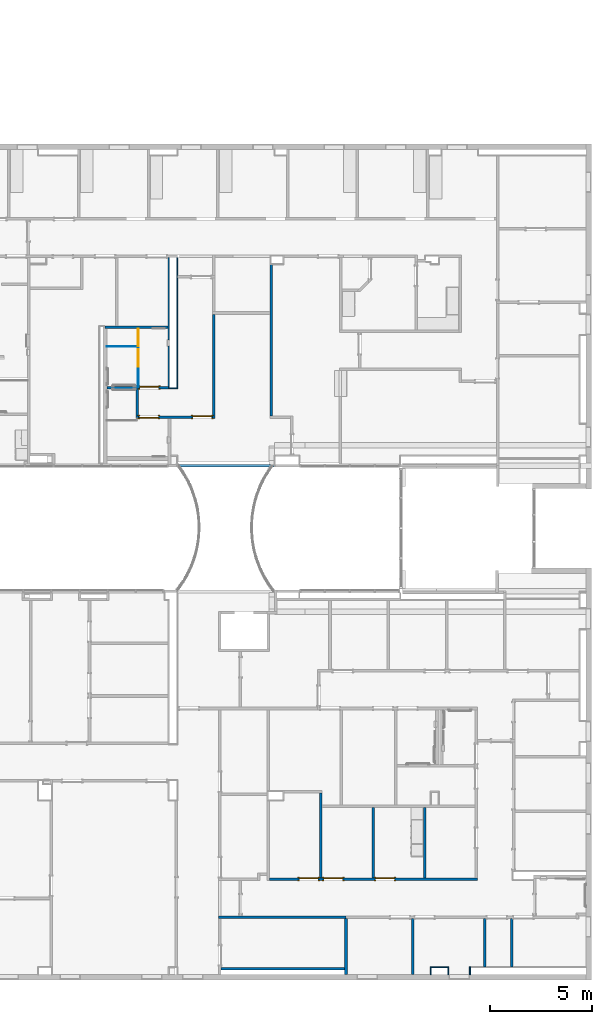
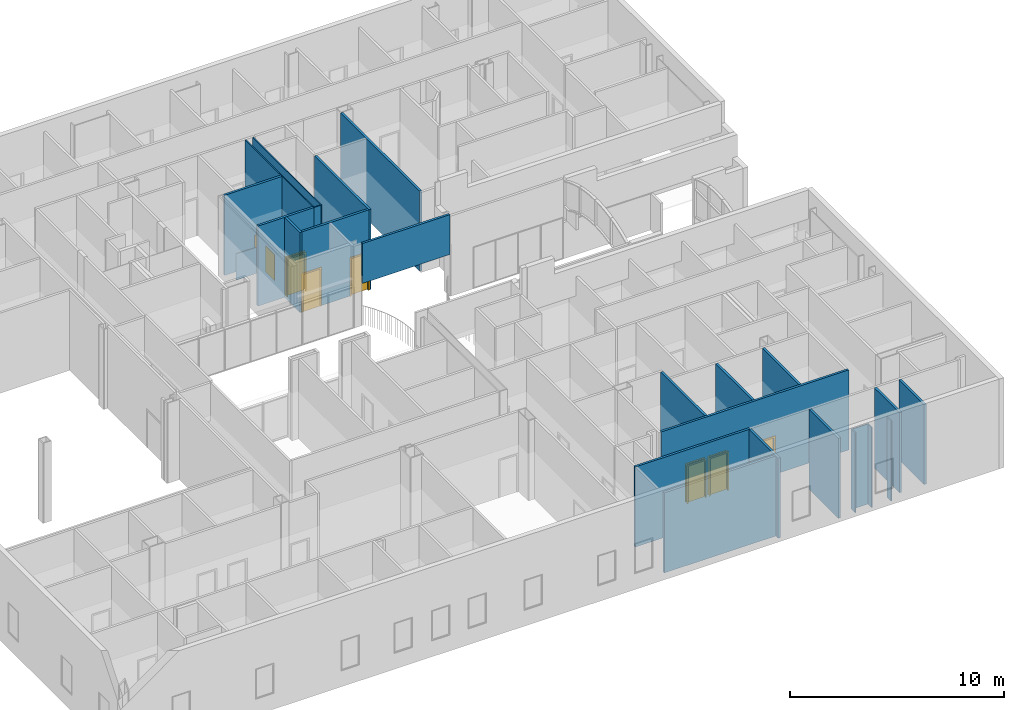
# One storey, part 14 of 45: 26 walls, 8 doors, 9 openings.
"""IFC2X3 building model written with IfcOpenShell, lengths in metres."""

from ifc_helpers import new_model, entity, si_unit, converted_unit, frame, frame_2d, origin, origin_2d_with_axis, place, context, project, spatial, polyline, rectangle, outline, extrude, source, transform, mapped, material, layer, layer_set, layer_usage, type_object, type_shapes, element, fill, save


model = new_model("IFC2X3")

# Units and contexts
model_context = context("Model", 3, precision=1e-09, world=origin())
plan_context = context("Plan", 3, precision=1e-09, world=origin())
ifc_project = project(units=[si_unit("LENGTHUNIT", "METRE"), si_unit("AREAUNIT", "SQUARE_METRE"), si_unit("VOLUMEUNIT", "CUBIC_METRE"), converted_unit("PLANEANGLEUNIT", "DEGREE", entity("IfcRatioMeasure", 0.01745329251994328), si_unit("PLANEANGLEUNIT", "RADIAN"), dimensions=[0, 0, 0, 0, 0, 0, 0]), si_unit("TIMEUNIT", "SECOND")], contexts=[model_context, plan_context])

# Site, building, storey
site_placement = place(None, origin())
site = spatial("IfcSite", under=ifc_project, at=site_placement, Name="Default", CompositionType="ELEMENT")
building_placement = place(site_placement, origin())
building = spatial("IfcBuilding", under=site, at=building_placement, CompositionType="ELEMENT")
storey_placement = place(building_placement, frame((0.0, 0.0, 4.570000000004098)))
storey = spatial("IfcBuildingStorey", under=building, at=storey_placement, Name="Second Floor", CompositionType="ELEMENT", Elevation=4.570000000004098)

# Wall, openings, doors
ifc_material_1 = material(Name="Plasterboard")
ifc_layer_1 = layer(ifc_material_1, 0.016)
ifc_material_2 = material(Name="Metal - Stud Layer")
ifc_layer_2 = layer(ifc_material_2, 0.092)
ifc_layer_3 = layer(ifc_material_1, 0.016)
ifc_layer_set_1 = layer_set([ifc_layer_1, ifc_layer_2, ifc_layer_3], Name="Basic Wall:Interior - Partition (92mm Stud)")
ifc_layer_usage_1 = layer_usage(ifc_layer_set_1, "AXIS2", "NEGATIVE", 0.062)
wall_1_placement = place(storey_placement, frame((-5.200000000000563, 14.58643871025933, 0.0), z_axis=(0.0, 0.0, 1.0), x_axis=(-1.0, 0.0, 0.0)))
wall_1 = element("IfcWallStandardCase", 1, at=wall_1_placement, inside=storey, material=ifc_layer_usage_1, Name="Basic Wall:Interior - Partition (92mm Stud)", ObjectType="Basic Wall:Interior - Partition (92mm Stud)", context=model_context, shape_type="SweptSolid", body=[
    extrude(rectangle(XDim=10.13599999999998, YDim=0.1240000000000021, at=frame_2d((5.067999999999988, 0.0), x_axis=(-1.0, 0.0))), origin(), (0.0, 0.0, 1.0), 4.577999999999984),
])
opening_1_placement = place(wall_1_placement, frame((4.965999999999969, 0.06199999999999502, 0.0)))
opening_1 = element("IfcOpeningElement", 2, at=opening_1_placement, cuts=wall_1, Name="M_Single-Flush:0915 x 2134mm:0915 x 2134mm:1", ObjectType="Opening", context=model_context, shape_type="SweptSolid", body=[
    extrude(rectangle(XDim=0.9149999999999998, YDim=2.134, at=frame_2d((1.067, 0.4574999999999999), x_axis=(0.0, -1.0))), frame((0.0, 0.0, 0.0), z_axis=(0.0, -1.0, 0.0), x_axis=(0.0, 0.0, 1.0)), (0.0, 0.0, 1.0), 0.124),
])
opening_2_placement = place(wall_1_placement, frame((8.688999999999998, 0.06199999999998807, 0.0)))
opening_2 = element("IfcOpeningElement", 3, at=opening_2_placement, cuts=wall_1, Name="M_Single-Flush:0915 x 2134mm:0915 x 2134mm:1", ObjectType="Opening", context=model_context, shape_type="SweptSolid", body=[
    extrude(rectangle(XDim=0.9149999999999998, YDim=2.134, at=frame_2d((1.067, 0.4575), x_axis=(0.0, 1.0))), frame((0.0, 0.0, 0.0), z_axis=(0.0, -1.0, 0.0), x_axis=(0.0, 0.0, 1.0)), (0.0, 0.0, 1.0), 0.124),
])
opening_3_placement = place(wall_1_placement, frame((7.489999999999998, 0.06199999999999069, 0.0)))
opening_3 = element("IfcOpeningElement", 4, at=opening_3_placement, cuts=wall_1, Name="M_Single-Flush:0915 x 2134mm:0915 x 2134mm:1", ObjectType="Opening", context=model_context, shape_type="SweptSolid", body=[
    extrude(rectangle(XDim=0.9149999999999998, YDim=2.134, at=frame_2d((1.067, 0.4574999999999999), x_axis=(0.0, -1.0))), frame((0.0, 0.0, 0.0), z_axis=(0.0, -1.0, 0.0), x_axis=(0.0, 0.0, 1.0)), (0.0, 0.0, 1.0), 0.124),
])
door_style_1 = type_object("IfcDoorStyle", Name="0915 x 2134mm", ConstructionType="NOTDEFINED", OperationType="SINGLE_SWING_RIGHT", ParameterTakesPrecedence=False, Sizeable=False)
shared_shape_1 = source(origin(), model_context, "Body", "SweptSolid", [
    extrude(outline(polyline([(-0.5335, -1.123999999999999), (0.5334999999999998, -1.123999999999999), (0.5334999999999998, 1.086), (0.4574999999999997, 1.086), (0.4574999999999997, -1.048000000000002), (-0.4574999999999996, -1.048000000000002), (-0.4574999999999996, 1.086), (-0.5335, 1.086), (-0.5335, -1.123999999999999)])), frame((0.4575000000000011, 0.1239999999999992, 1.086), z_axis=(0.0, 1.0, 0.0), x_axis=(1.0, 0.0, 0.0)), (0.0, 0.0, 1.0), 0.02499999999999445),
    extrude(outline(polyline([(-1.123999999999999, -0.5334999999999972), (1.085999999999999, -0.5334999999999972), (1.085999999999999, -0.4575000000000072), (-1.048, -0.4575000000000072), (-1.048, 0.4575000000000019), (1.085999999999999, 0.4575000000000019), (1.085999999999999, 0.5335000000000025), (-1.123999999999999, 0.5335000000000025), (-1.123999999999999, -0.5334999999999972)])), frame((0.4575000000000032, -0.02500000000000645, 1.085999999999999), z_axis=(0.0, 1.0, 0.0), x_axis=(0.0, 0.0, -1.0)), (0.0, 0.0, 1.0), 0.02500000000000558),
    extrude(rectangle(XDim=0.051, YDim=0.9149999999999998, at=origin_2d_with_axis()), frame((0.4575000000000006, 0.09849999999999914, 0.0), z_axis=(0.0, 0.0, 1.0), x_axis=(0.0, 1.0, 0.0)), (0.0, 0.0, 1.0), 2.133999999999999),
])
type_shapes(door_style_1, [shared_shape_1])
door_1_placement = place(opening_2_placement, frame((0.0, 0.0, 0.0), z_axis=(0.0, 0.0, 1.0), x_axis=(-1.0, 0.0, 0.0)))
door_1 = element("IfcDoor", 5, at=door_1_placement, inside=storey, type_object=door_style_1, Name="M_Single-Flush:0915 x 2134mm:0915 x 2134mm", ObjectType="0915 x 2134mm", OverallHeight=2.134, OverallWidth=0.9149999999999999, context=model_context, shape_type="MappedRepresentation", body=[
    mapped(shared_shape_1, transform((0.0, 0.0, 0.0), scale=1.0)),
])
fill(opening_2, door_1)
door_style_2 = type_object("IfcDoorStyle", Name="0915 x 2134mm", ConstructionType="NOTDEFINED", OperationType="SINGLE_SWING_LEFT", ParameterTakesPrecedence=False, Sizeable=False)
shared_shape_2 = source(origin(), model_context, "Body", "SweptSolid", [
    extrude(outline(polyline([(-0.5335, -1.123999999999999), (0.5334999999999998, -1.123999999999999), (0.5334999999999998, 1.086), (0.4574999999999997, 1.086), (0.4574999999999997, -1.048000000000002), (-0.4574999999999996, -1.048000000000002), (-0.4574999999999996, 1.086), (-0.5335, 1.086), (-0.5335, -1.123999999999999)])), frame((0.4575000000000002, 0.1489999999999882, 1.086), z_axis=(0.0, -1.0, 0.0), x_axis=(-1.0, 0.0, 0.0)), (0.0, 0.0, 1.0), 0.02499999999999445),
    extrude(outline(polyline([(-1.123999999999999, -0.5334999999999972), (1.085999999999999, -0.5334999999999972), (1.085999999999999, -0.4575000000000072), (-1.048, -0.4575000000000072), (-1.048, 0.4575000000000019), (1.085999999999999, 0.4575000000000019), (1.085999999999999, 0.5335000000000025), (-1.123999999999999, 0.5335000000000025), (-1.123999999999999, -0.5334999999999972)])), frame((0.4574999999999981, 0.0, 1.085999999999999), z_axis=(0.0, -1.0, 0.0), x_axis=(0.0, 0.0, -1.0)), (0.0, 0.0, 1.0), 0.02500000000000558),
    extrude(rectangle(XDim=0.9149999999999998, YDim=0.051, at=origin_2d_with_axis()), frame((0.4575000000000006, 0.09849999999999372, 0.0)), (0.0, 0.0, 1.0), 2.133999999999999),
])
type_shapes(door_style_2, [shared_shape_2])
door_2_placement = place(opening_1_placement, frame((0.0, 0.0, 0.0), z_axis=(0.0, 0.0, 1.0), x_axis=(-1.0, 0.0, 0.0)))
door_2 = element("IfcDoor", 6, at=door_2_placement, inside=storey, type_object=door_style_2, Name="M_Single-Flush:0915 x 2134mm:0915 x 2134mm", ObjectType="0915 x 2134mm", OverallHeight=2.134, OverallWidth=0.9149999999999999, context=model_context, shape_type="MappedRepresentation", body=[
    mapped(shared_shape_2, transform((0.0, 0.0, 0.0), scale=1.0)),
])
fill(opening_1, door_2)
door_3_placement = place(opening_3_placement, frame((0.0, 0.0, 0.0), z_axis=(0.0, 0.0, 1.0), x_axis=(-1.0, 0.0, 0.0)))
door_3 = element("IfcDoor", 7, at=door_3_placement, inside=storey, type_object=door_style_2, Name="M_Single-Flush:0915 x 2134mm:0915 x 2134mm", ObjectType="0915 x 2134mm", OverallHeight=2.134, OverallWidth=0.9149999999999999, context=model_context, shape_type="MappedRepresentation", body=[
    mapped(shared_shape_2, transform((0.0, 0.0, 0.0), scale=1.0)),
])
fill(opening_3, door_3)

# Wall
ifc_material_3 = material(Name="Type-X Plasterboard")
ifc_layer_4 = layer(ifc_material_3, 0.016)
ifc_layer_5 = layer(ifc_material_2, 0.092)
ifc_layer_6 = layer(ifc_material_3, 0.016)
ifc_layer_set_2 = layer_set([ifc_layer_4, ifc_layer_5, ifc_layer_6], Name="Basic Wall:Interior - Rated 1-HR (92mm Stud)")
ifc_layer_usage_2 = layer_usage(ifc_layer_set_2, "AXIS2", "NEGATIVE", 0.06200000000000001)
wall_2_placement = place(storey_placement, frame((-11.61199985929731, 12.71799999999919, 0.0), z_axis=(0.0, 0.0, 1.0), x_axis=(-1.0, 0.0, 0.0)))
element("IfcWallStandardCase", 8, at=wall_2_placement, inside=storey, material=ifc_layer_usage_2, Name="Basic Wall:Interior - Rated 1-HR (92mm Stud)", ObjectType="Basic Wall:Interior - Rated 1-HR (92mm Stud)", context=model_context, shape_type="SweptSolid", body=[
    extrude(rectangle(XDim=6.21800014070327, YDim=0.1240000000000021, at=frame_2d((3.109000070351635, 0.0), x_axis=(-1.0, 0.0))), origin(), (0.0, 0.0, 1.0), 4.577999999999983),
])

# Wall, opening, door
wall_3_placement = place(storey_placement, frame((-20.26300000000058, 38.57635336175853, 0.0), z_axis=(0.0, 0.0, 1.0), x_axis=(-1.0, 0.0, 0.0)))
wall_3 = element("IfcWallStandardCase", 9, at=wall_3_placement, inside=storey, material=ifc_layer_usage_1, Name="Basic Wall:Interior - Partition (92mm Stud)", ObjectType="Basic Wall:Interior - Partition (92mm Stud)", context=model_context, shape_type="SweptSolid", body=[
    extrude(rectangle(XDim=3.027000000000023, YDim=0.1239999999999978, at=frame_2d((1.513500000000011, 0.0), x_axis=(-1.0, 0.0))), origin(), (0.0, 0.0, 1.0), 4.577999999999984),
])
opening_4_placement = place(wall_3_placement, frame((1.406999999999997, 0.06199999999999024, 0.0)))
opening_4 = element("IfcOpeningElement", 10, at=opening_4_placement, cuts=wall_3, Name=":1", ObjectType="Opening", context=model_context, shape_type="SweptSolid", body=[
    extrude(rectangle(XDim=0.9149999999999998, YDim=2.134, at=frame_2d((1.067, 0.4575000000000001), x_axis=(0.0, -1.0))), frame((0.0, 0.0, 0.0), z_axis=(0.0, -1.0, 0.0), x_axis=(0.0, 0.0, 1.0)), (0.0, 0.0, 1.0), 0.124),
])
door_4_placement = place(opening_4_placement, frame((0.0, 0.0, 0.0), z_axis=(0.0, 0.0, 1.0), x_axis=(-1.0, 0.0, 0.0)))
door_4 = element("IfcDoor", 11, at=door_4_placement, inside=storey, type_object=door_style_2, Name="M_Single-Flush:0915 x 2134mm:0915 x 2134mm", ObjectType="0915 x 2134mm", OverallHeight=2.134, OverallWidth=0.9149999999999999, context=model_context, shape_type="MappedRepresentation", body=[
    mapped(shared_shape_2, transform((0.0, 0.0, 0.0), scale=1.0)),
])
fill(opening_4, door_4)

# Wall
wall_4_placement = place(storey_placement, frame((-15.2580000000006, 37.19843871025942, 0.0), z_axis=(0.0, 0.0, 1.0), x_axis=(0.0, 1.0, 0.0)))
element("IfcWallStandardCase", 12, at=wall_4_placement, inside=storey, material=ifc_layer_usage_1, Name="Basic Wall:Interior - Partition (92mm Stud)", ObjectType="Basic Wall:Interior - Partition (92mm Stud)", context=model_context, shape_type="SweptSolid", body=[
    extrude(rectangle(XDim=7.385999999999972, YDim=0.1240000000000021, at=frame_2d((3.692999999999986, 0.0), x_axis=(-1.0, 0.0))), origin(), (0.0, 0.0, 1.0), 4.577999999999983),
])

# Wall, openings, doors
wall_5_placement = place(storey_placement, frame((-18.12900000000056, 37.13643871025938, 0.0), z_axis=(0.0, 0.0, 1.0), x_axis=(-1.0, 0.0, 0.0)))
wall_5 = element("IfcWallStandardCase", 13, at=wall_5_placement, inside=storey, material=ifc_layer_usage_1, Name="Basic Wall:Interior - Partition (92mm Stud)", ObjectType="Basic Wall:Interior - Partition (92mm Stud)", context=model_context, shape_type="SweptSolid", body=[
    extrude(rectangle(XDim=3.601000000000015, YDim=0.1240000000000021, at=frame_2d((1.800500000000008, 0.0), x_axis=(1.0, 0.0))), origin(), (0.0, 0.0, 1.0), 4.577999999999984),
])
opening_5_placement = place(wall_5_placement, frame((2.646000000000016, -0.06200000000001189, 0.0)))
opening_5 = element("IfcOpeningElement", 14, at=opening_5_placement, cuts=wall_5, Name="M_Single-Flush:0915 x 2134mm:0915 x 2134mm:1", ObjectType="Opening", context=model_context, shape_type="SweptSolid", body=[
    extrude(rectangle(XDim=0.9149999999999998, YDim=2.134, at=frame_2d((1.067, 0.4575), x_axis=(0.0, 1.0))), frame((0.0, 0.0, 0.0), z_axis=(0.0, 1.0, 0.0), x_axis=(0.0, 0.0, 1.0)), (0.0, 0.0, 1.0), 0.124),
])
opening_6_placement = place(wall_5_placement, frame((0.9550000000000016, 0.06199999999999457, 0.0)))
opening_6 = element("IfcOpeningElement", 15, at=opening_6_placement, cuts=wall_5, Name="M_Single-Flush:0915 x 2134mm:0915 x 2134mm:1", ObjectType="Opening", context=model_context, shape_type="SweptSolid", body=[
    extrude(rectangle(XDim=0.9149999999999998, YDim=2.134, at=frame_2d((1.067, 0.4575), x_axis=(0.0, 1.0))), frame((0.0, 0.0, 0.0), z_axis=(0.0, -1.0, 0.0), x_axis=(0.0, 0.0, 1.0)), (0.0, 0.0, 1.0), 0.124),
])
door_5_placement = place(opening_6_placement, frame((0.0, 0.0, 0.0), z_axis=(0.0, 0.0, 1.0), x_axis=(-1.0, 0.0, 0.0)))
door_5 = element("IfcDoor", 16, at=door_5_placement, inside=storey, type_object=door_style_1, Name="M_Single-Flush:0915 x 2134mm:0915 x 2134mm", ObjectType="0915 x 2134mm", OverallHeight=2.134, OverallWidth=0.9149999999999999, context=model_context, shape_type="MappedRepresentation", body=[
    mapped(shared_shape_1, transform((0.0, 0.0, 0.0), scale=1.0)),
])
fill(opening_6, door_5)
door_6_placement = place(opening_5_placement, origin())
door_6 = element("IfcDoor", 17, at=door_6_placement, inside=storey, type_object=door_style_1, Name="M_Single-Flush:0915 x 2134mm:0915 x 2134mm", ObjectType="0915 x 2134mm", OverallHeight=2.134, OverallWidth=0.9149999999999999, context=model_context, shape_type="MappedRepresentation", body=[
    mapped(shared_shape_1, transform((0.0, 0.0, 0.0), scale=1.0)),
])
fill(opening_5, door_6)

# Walls
wall_6_placement = place(storey_placement, frame((-23.3820000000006, 41.53243871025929, 0.0)))
element("IfcWallStandardCase", 18, at=wall_6_placement, inside=storey, material=ifc_layer_usage_1, Name="Basic Wall:Interior - Partition (92mm Stud)", ObjectType="Basic Wall:Interior - Partition (92mm Stud)", context=model_context, shape_type="SweptSolid", body=[
    extrude(rectangle(XDim=3.092000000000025, YDim=0.1240000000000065, at=frame_2d((1.546000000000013, 0.0), x_axis=(-1.0, 0.0))), origin(), (0.0, 0.0, 1.0), 4.577999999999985),
])
wall_7_placement = place(storey_placement, frame((-11.61199985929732, 9.926999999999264, 0.0), z_axis=(0.0, 0.0, 1.0), x_axis=(0.0, 1.0, 0.0)))
element("IfcWallStandardCase", 19, at=wall_7_placement, inside=storey, material=ifc_layer_usage_2, Name="Basic Wall:Interior - Rated 1-HR (92mm Stud)", ObjectType="Basic Wall:Interior - Rated 1-HR (92mm Stud)", context=model_context, shape_type="SweptSolid", body=[
    extrude(rectangle(XDim=2.728999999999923, YDim=0.1240000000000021, at=frame_2d((1.364499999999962, 0.0), x_axis=(-1.0, 0.0))), origin(), (0.0, 0.0, 1.0), 4.577999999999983),
])

# Wall, opening
ifc_layer_7 = layer(ifc_material_2, 0.038)
ifc_layer_8 = layer(ifc_material_1, 0.016)
ifc_layer_set_3 = layer_set([ifc_layer_7, ifc_layer_8], Name="Basic Wall:Interior - Furring (38 mm Stud)")
ifc_layer_usage_3 = layer_usage(ifc_layer_set_3, "AXIS2", "POSITIVE", -0.027)
wall_8_placement = place(storey_placement, frame((-20.26300000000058, 38.56835336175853, 0.0), z_axis=(0.0, 0.0, 1.0), x_axis=(0.0, 1.0, 0.0)))
wall_8 = element("IfcWallStandardCase", 20, at=wall_8_placement, inside=storey, material=ifc_layer_usage_3, Name="Basic Wall:Interior - Furring (38 mm Stud)", ObjectType="Basic Wall:Interior - Furring (38 mm Stud)", context=model_context, shape_type="SweptSolid", body=[
    extrude(outline(polyline([(6.352085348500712, -0.02700000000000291), (6.352085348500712, 0.0269999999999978), (3.026085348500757, 0.0269999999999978), (2.902085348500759, 0.02699999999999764), (0.07000000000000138, 0.02699999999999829), (0.07000000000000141, 0.0), (0.0, 0.0), (0.0, -0.02700000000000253), (6.352085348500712, -0.02700000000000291)])), origin(), (0.0, 0.0, 1.0), 4.577999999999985),
])
opening_7_placement = place(wall_8_placement, origin())
element("IfcOpeningElement", 21, at=opening_7_placement, cuts=wall_8, ObjectType="Opening", context=model_context, shape_type="SweptSolid", body=[
    extrude(rectangle(XDim=1.362075, YDim=0.2984499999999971, at=frame_2d((0.0, 0.0), x_axis=(0.0, 1.0))), frame((2.181185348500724, -0.06190000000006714, 1.041399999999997), z_axis=(0.0, 1.0, 0.0), x_axis=(1.0, 0.0, 0.0)), (0.0, 0.0, 1.0), 0.1524000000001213),
])

# Walls
wall_9_placement = place(storey_placement, frame((-12.85200000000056, 18.78043871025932, 0.0), z_axis=(0.0, 0.0, 1.0), x_axis=(0.0, -1.0, 0.0)))
element("IfcWallStandardCase", 22, at=wall_9_placement, inside=storey, material=ifc_layer_usage_1, Name="Basic Wall:Interior - Partition (92mm Stud)", ObjectType="Basic Wall:Interior - Partition (92mm Stud)", context=model_context, shape_type="SweptSolid", body=[
    extrude(rectangle(XDim=4.131999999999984, YDim=0.1240000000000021, at=frame_2d((2.065999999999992, 0.0), x_axis=(-1.0, 0.0))), origin(), (0.0, 0.0, 1.0), 4.577999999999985),
])
wall_10_placement = place(storey_placement, frame((-15.08297500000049, 34.77180159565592, 2.399999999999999), z_axis=(0.0, 0.0, 1.0), x_axis=(-1.0, 0.0, 0.0)))
element("IfcWallStandardCase", 23, at=wall_10_placement, inside=storey, material=ifc_layer_usage_1, Name="Basic Wall:Interior - Partition (92mm Stud)", ObjectType="Basic Wall:Interior - Partition (92mm Stud)", context=model_context, shape_type="SweptSolid", body=[
    extrude(rectangle(XDim=4.720025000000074, YDim=0.1240000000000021, at=frame_2d((2.387012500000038, 0.0), x_axis=(-1.0, 0.0))), origin(), (0.0, 0.0, 1.0), 2.279999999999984),
])
wall_11_placement = place(storey_placement, frame((-19.88400000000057, 38.54135336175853, 0.0), z_axis=(0.0, 0.0, 1.0), x_axis=(-1.0, 0.0, 0.0)))
element("IfcWallStandardCase", 24, at=wall_11_placement, inside=storey, material=ifc_layer_usage_3, Name="Basic Wall:Interior - Furring (38 mm Stud)", ObjectType="Basic Wall:Interior - Furring (38 mm Stud)", context=model_context, shape_type="SweptSolid", body=[
    extrude(rectangle(XDim=0.3790000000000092, YDim=0.05399999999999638, at=frame_2d((0.1895000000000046, 0.0), x_axis=(-1.0, 0.0))), origin(), (0.0, 0.0, 1.0), 4.577999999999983),
])
wall_12_placement = place(storey_placement, frame((-19.85700000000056, 44.92043871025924, 0.0), z_axis=(0.0, 0.0, 1.0), x_axis=(0.0, -1.0, 0.0)))
element("IfcWallStandardCase", 25, at=wall_12_placement, inside=storey, material=ifc_layer_usage_3, Name="Basic Wall:Interior - Furring (38 mm Stud)", ObjectType="Basic Wall:Interior - Furring (38 mm Stud)", context=model_context, shape_type="SweptSolid", body=[
    extrude(rectangle(XDim=6.406085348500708, YDim=0.05399999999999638, at=frame_2d((3.203042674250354, 0.0), x_axis=(-1.0, 0.0))), origin(), (0.0, 0.0, 1.0), 4.577999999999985),
])
wall_13_placement = place(storey_placement, frame((-18.06700000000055, 42.15600069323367, 0.0), z_axis=(0.0, 0.0, 1.0), x_axis=(0.0, -1.0, 0.0)))
element("IfcWallStandardCase", 26, at=wall_13_placement, inside=storey, material=ifc_layer_usage_1, Name="Basic Wall:Interior - Partition (92mm Stud)", ObjectType="Basic Wall:Interior - Partition (92mm Stud)", context=model_context, shape_type="SweptSolid", body=[
    extrude(rectangle(XDim=5.08156198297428, YDim=0.1240000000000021, at=frame_2d((2.54078099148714, 0.0), x_axis=(-1.0, 0.0))), origin(), (0.0, 0.0, 1.0), 4.577999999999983),
])
wall_14_placement = place(storey_placement, frame((-21.79200000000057, 38.51435336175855, 0.0), z_axis=(0.0, 0.0, 1.0), x_axis=(0.0, -1.0, 0.0)))
element("IfcWallStandardCase", 27, at=wall_14_placement, inside=storey, material=ifc_layer_usage_1, Name="Basic Wall:Interior - Partition (92mm Stud)", ObjectType="Basic Wall:Interior - Partition (92mm Stud)", context=model_context, shape_type="SweptSolid", body=[
    extrude(rectangle(XDim=1.439914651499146, YDim=0.1239999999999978, at=frame_2d((0.7199573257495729, 0.0), x_axis=(-1.0, 0.0))), origin(), (0.0, 0.0, 1.0), 4.577999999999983),
])

# Wall, openings, doors
ifc_material_4 = material(Name="Laminate - Ivory, Matte")
ifc_layer_9 = layer(ifc_material_4, 0.025)
ifc_layer_set_4 = layer_set([ifc_layer_9], Name="Basic Wall:Interior - Toilet Partition (25mm)")
ifc_layer_usage_4 = layer_usage(ifc_layer_set_4, "AXIS2", "NEGATIVE", 0.0125)
wall_15_placement = place(storey_placement, frame((-21.75250066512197, 38.63835336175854, 0.25), z_axis=(0.0, 0.0, 1.0), x_axis=(0.0, 1.0, 0.0)))
wall_15 = element("IfcWallStandardCase", 28, at=wall_15_placement, inside=storey, material=ifc_layer_usage_4, Name="Basic Wall:Interior - Toilet Partition (25mm)", ObjectType="Basic Wall:Interior - Toilet Partition (25mm)", context=model_context, shape_type="SweptSolid", body=[
    extrude(rectangle(XDim=2.832085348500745, YDim=0.02500000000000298, at=frame_2d((1.416042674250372, 0.0), x_axis=(-1.0, 0.0))), origin(), (0.0, 0.0, 1.0), 1.5),
])
opening_8_placement = place(wall_15_placement, frame((1.821085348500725, 0.01249999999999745, 0.0)))
opening_8 = element("IfcOpeningElement", 29, at=opening_8_placement, cuts=wall_15, Name="M_Toilet Partition:0865 x 1500mm:0865 x 1500mm:1", ObjectType="Opening", context=model_context, shape_type="SweptSolid", body=[
    extrude(rectangle(XDim=0.8649999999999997, YDim=1.5, at=frame_2d((0.7499999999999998, 0.4325000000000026), x_axis=(0.0, -1.0))), frame((0.0, 0.0, 0.0), z_axis=(0.0, -1.0, 0.0), x_axis=(0.0, 0.0, 1.0)), (0.0, 0.0, 1.0), 0.025),
])
opening_9_placement = place(wall_15_placement, frame((1.956585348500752, -0.01250000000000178, 0.0)))
opening_9 = element("IfcOpeningElement", 30, at=opening_9_placement, cuts=wall_15, Name="M_Toilet Partition:0865 x 1500mm:0865 x 1500mm:1", ObjectType="Opening", context=model_context, shape_type="SweptSolid", body=[
    extrude(rectangle(XDim=0.8649999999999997, YDim=1.5, at=frame_2d((0.7499999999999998, 0.4325000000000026), x_axis=(0.0, -1.0))), frame((0.0, 0.0, 0.0), z_axis=(0.0, 1.0, 0.0), x_axis=(0.0, 0.0, 1.0)), (0.0, 0.0, 1.0), 0.025),
])
door_style_3 = type_object("IfcDoorStyle", Name="0865 x 1500mm", ConstructionType="NOTDEFINED", OperationType="SINGLE_SWING_LEFT", ParameterTakesPrecedence=False, Sizeable=False)
shared_shape_3 = source(origin(), model_context, "Body", "SweptSolid", [
    extrude(rectangle(XDim=0.8649999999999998, YDim=0.025, at=origin_2d_with_axis()), frame((0.4325000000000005, 0.01249999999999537, 0.0)), (0.0, 0.0, 1.0), 1.499999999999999),
])
type_shapes(door_style_3, [shared_shape_3])
door_7_placement = place(opening_8_placement, frame((0.0, 0.0, 0.0), z_axis=(0.0, 0.0, 1.0), x_axis=(-1.0, 0.0, 0.0)))
door_7 = element("IfcDoor", 31, at=door_7_placement, inside=storey, type_object=door_style_3, Name="M_Toilet Partition:0865 x 1500mm:0865 x 1500mm", ObjectType="0865 x 1500mm", OverallHeight=1.5, OverallWidth=0.8650000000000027, context=model_context, shape_type="MappedRepresentation", body=[
    mapped(shared_shape_3, transform((0.0, 0.0, 0.0), scale=1.0)),
])
fill(opening_8, door_7)
door_8_placement = place(opening_9_placement, origin())
door_8 = element("IfcDoor", 32, at=door_8_placement, inside=storey, type_object=door_style_3, Name="M_Toilet Partition:0865 x 1500mm:0865 x 1500mm", ObjectType="0865 x 1500mm", OverallHeight=1.5, OverallWidth=0.8650000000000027, context=model_context, shape_type="MappedRepresentation", body=[
    mapped(shared_shape_3, transform((0.0, 0.0, 0.0), scale=1.0)),
])
fill(opening_9, door_8)

# Walls
wall_16_placement = place(storey_placement, frame((-10.28800000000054, 14.64843871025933, 0.0), z_axis=(0.0, 0.0, 1.0), x_axis=(0.0, 1.0, 0.0)))
element("IfcWallStandardCase", 33, at=wall_16_placement, inside=storey, material=ifc_layer_usage_1, Name="Basic Wall:Interior - Partition (92mm Stud)", ObjectType="Basic Wall:Interior - Partition (92mm Stud)", context=model_context, shape_type="SweptSolid", body=[
    extrude(rectangle(XDim=3.431999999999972, YDim=0.1240000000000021, at=frame_2d((1.715999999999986, 0.0), x_axis=(-1.0, 0.0))), origin(), (0.0, 0.0, 1.0), 4.577999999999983),
])
wall_17_placement = place(storey_placement, frame((-8.358000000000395, 9.926999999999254, 0.0), z_axis=(0.0, 0.0, 1.0), x_axis=(0.0, 1.0, 0.0)))
element("IfcWallStandardCase", 34, at=wall_17_placement, inside=storey, material=ifc_layer_usage_1, Name="Basic Wall:Interior - Partition (92mm Stud)", ObjectType="Basic Wall:Interior - Partition (92mm Stud)", context=model_context, shape_type="SweptSolid", body=[
    extrude(rectangle(XDim=2.728999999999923, YDim=0.124, at=frame_2d((1.364499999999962, 0.0), x_axis=(-1.0, 0.0))), origin(), (0.0, 0.0, 1.0), 4.577999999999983),
])
wall_18_placement = place(storey_placement, frame((-7.75800000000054, 14.64843871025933, 0.0), z_axis=(0.0, 0.0, 1.0), x_axis=(0.0, 1.0, 0.0)))
element("IfcWallStandardCase", 35, at=wall_18_placement, inside=storey, material=ifc_layer_usage_1, Name="Basic Wall:Interior - Partition (92mm Stud)", ObjectType="Basic Wall:Interior - Partition (92mm Stud)", context=model_context, shape_type="SweptSolid", body=[
    extrude(rectangle(XDim=3.431999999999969, YDim=0.124, at=frame_2d((1.715999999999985, 0.0), x_axis=(-1.0, 0.0))), origin(), (0.0, 0.0, 1.0), 4.577999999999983),
])
for number, where, z_axis, x_axis, name in (
    (36, (-4.838000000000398, 10.30443871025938, 0.0), (0.0, 0.0, 1.0), (0.0, 1.0, 0.0), "Basic Wall:Interior - Partition (92mm Stud)"),
    (37, (-3.512000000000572, 12.65599999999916, 0.0), (0.0, 0.0, 1.0), (0.0, -1.0, 0.0), "Basic Wall:Interior - Partition (92mm Stud)"),
):
    element("IfcWallStandardCase", number, at=place(storey_placement, frame(where, z_axis=z_axis, x_axis=x_axis)), inside=storey, material=ifc_layer_usage_1, Name=name, ObjectType="Basic Wall:Interior - Partition (92mm Stud)", context=model_context, shape_type="SweptSolid", body=[
        extrude(rectangle(XDim=2.351561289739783, YDim=0.124, at=frame_2d((1.175780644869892, 0.0), x_axis=(-1.0, 0.0))), origin(), (0.0, 0.0, 1.0), 4.577999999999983),
    ])
wall_19_placement = place(storey_placement, frame((-7.483000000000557, 9.92699999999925, 0.0), z_axis=(0.0, 0.0, 1.0), x_axis=(0.0, 1.0, 0.0)))
element("IfcWallStandardCase", 38, at=wall_19_placement, inside=storey, material=ifc_layer_usage_3, Name="Basic Wall:Interior - Furring (38 mm Stud)", ObjectType="Basic Wall:Interior - Furring (38 mm Stud)", context=model_context, shape_type="SweptSolid", body=[
    extrude(rectangle(XDim=0.3774387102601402, YDim=0.05400000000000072, at=frame_2d((0.1887193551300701, 0.0), x_axis=(-1.0, 0.0))), origin(), (0.0, 0.0, 1.0), 4.577999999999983),
])
wall_20_placement = place(storey_placement, frame((-17.70600000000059, 10.20799983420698, 0.0)))
element("IfcWallStandardCase", 39, at=wall_20_placement, inside=storey, material=ifc_layer_usage_1, Name="Basic Wall:Interior - Partition (92mm Stud)", ObjectType="Basic Wall:Interior - Partition (92mm Stud)", context=model_context, shape_type="SweptSolid", body=[
    extrude(rectangle(XDim=6.03200014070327, YDim=0.1240000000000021, at=frame_2d((3.016000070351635, 0.0), x_axis=(-1.0, 0.0))), origin(), (0.0, 0.0, 1.0), 4.577999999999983),
])
wall_21_placement = place(storey_placement, frame((-7.456000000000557, 10.27743871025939, 0.0)))
element("IfcWallStandardCase", 40, at=wall_21_placement, inside=storey, material=ifc_layer_usage_3, Name="Basic Wall:Interior - Furring (38 mm Stud)", ObjectType="Basic Wall:Interior - Furring (38 mm Stud)", context=model_context, shape_type="SweptSolid", body=[
    extrude(rectangle(XDim=0.8709969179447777, YDim=0.05400000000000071, at=frame_2d((0.4354984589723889, 0.0), x_axis=(-1.0, 0.0))), origin(), (0.0, 0.0, 1.0), 4.577999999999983),
])
wall_22_placement = place(storey_placement, frame((-5.558003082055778, 9.926999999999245, 0.0), z_axis=(0.0, 0.0, 1.0), x_axis=(0.0, 1.0, 0.0)))
element("IfcWallStandardCase", 41, at=wall_22_placement, inside=storey, material=ifc_layer_usage_3, Name="Basic Wall:Interior - Furring (38 mm Stud)", ObjectType="Basic Wall:Interior - Furring (38 mm Stud)", context=model_context, shape_type="SweptSolid", body=[
    extrude(rectangle(XDim=0.3774387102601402, YDim=0.05400000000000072, at=frame_2d((0.1887193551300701, 0.0), x_axis=(-1.0, 0.0))), origin(), (0.0, 0.0, 1.0), 4.577999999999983),
])
wall_23_placement = place(storey_placement, frame((-6.612003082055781, 10.25043871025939, 0.0), z_axis=(0.0, 0.0, 1.0), x_axis=(0.0, -1.0, 0.0)))
element("IfcWallStandardCase", 42, at=wall_23_placement, inside=storey, material=ifc_layer_usage_3, Name="Basic Wall:Interior - Furring (38 mm Stud)", ObjectType="Basic Wall:Interior - Furring (38 mm Stud)", context=model_context, shape_type="SweptSolid", body=[
    extrude(rectangle(XDim=0.3234387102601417, YDim=0.05400000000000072, at=frame_2d((0.1617193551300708, 0.0), x_axis=(-1.0, 0.0))), origin(), (0.0, 0.0, 1.0), 4.577999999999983),
])
wall_24_placement = place(storey_placement, frame((-23.2900000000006, 40.57193871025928, 0.25)))
element("IfcWallStandardCase", 43, at=wall_24_placement, inside=storey, material=ifc_layer_usage_4, Name="Basic Wall:Interior - Toilet Partition (25mm)", ObjectType="Basic Wall:Interior - Toilet Partition (25mm)", context=model_context, shape_type="SweptSolid", body=[
    extrude(rectangle(XDim=1.524999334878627, YDim=0.02499999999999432, at=frame_2d((0.7624996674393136, 0.0), x_axis=(-1.0, 0.0))), origin(), (0.0, 0.0, 1.0), 1.5),
])

save(model, "model.ifc")
